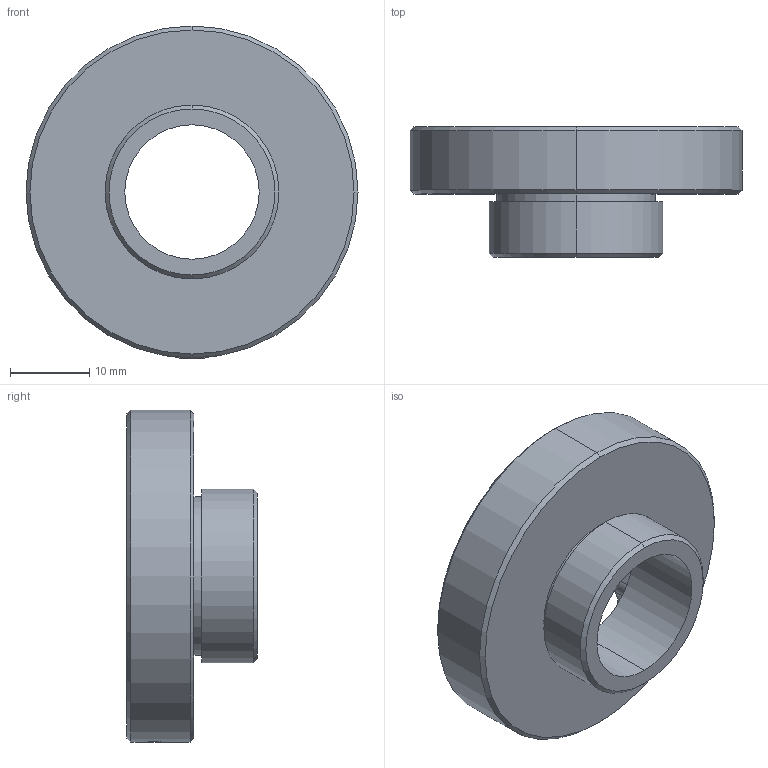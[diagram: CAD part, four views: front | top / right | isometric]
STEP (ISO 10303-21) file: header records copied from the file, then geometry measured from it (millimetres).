
FILE_DESCRIPTION (( 'STEP AP203' ), '1' );
FILE_NAME ('MAD-M22-25.4.step', '2019-05-09T08:57:08', ( '' ), ( '' ), 'SwSTEP 2.0', 'SolidWorks 2016', '' );
FILE_SCHEMA (( 'CONFIG_CONTROL_DESIGN' ));
Length unit declared in the file: millimetre
Products named in the file (1): MAD-M22-25.4
Bounding box: 42 x 16.5 x 42 mm (x, y, z)
Surface area: 5157 mm2 (no closed solid volume)
Topology: 0 solids, 4 shells, 82 faces, 444 edges, 360 vertices
Faces by surface type: plane 47, cylinder 27, cone 8
Entity records: 4478 total; most frequent: CARTESIAN_POINT 1001, DIRECTION 658, ORIENTED_EDGE 612, EDGE_CURVE 444, VECTOR 376, LINE 376, VERTEX_POINT 360, AXIS2_PLACEMENT_3D 141
